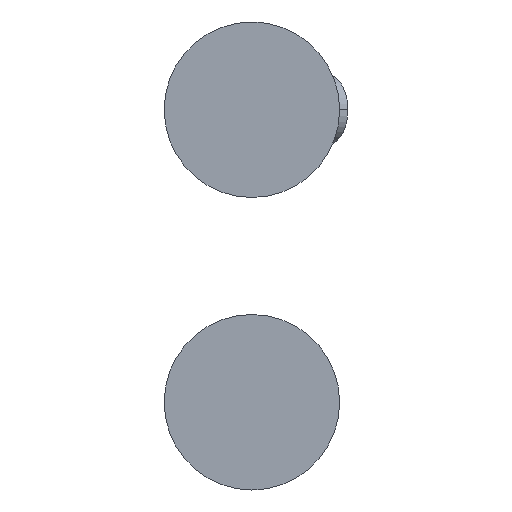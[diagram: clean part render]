
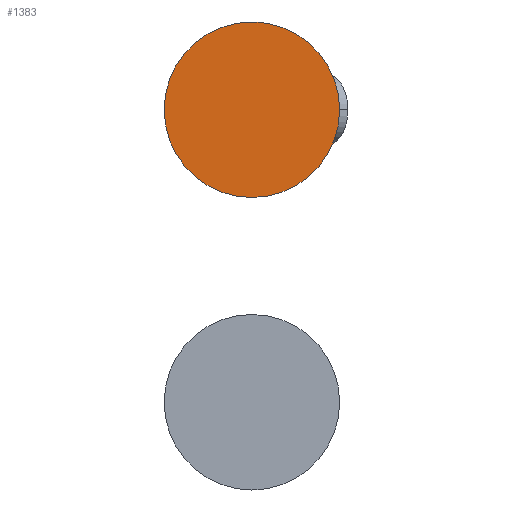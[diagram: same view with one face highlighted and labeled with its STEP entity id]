
A CAD part, left-side view. The second image highlights one B-rep face of the part: STEP entity #1383.
In plain terms, the highlighted planar face has unit normal (-1, 0, 0).
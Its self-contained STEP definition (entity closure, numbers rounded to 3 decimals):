
#299 = VERTEX_POINT ( 'NONE', #906 ) ;
#403 = CARTESIAN_POINT ( 'NONE',  ( -6., 0., 0. ) ) ;
#430 = DIRECTION ( 'NONE',  ( 0., 0., -1. ) ) ;
#484 = VERTEX_POINT ( 'NONE', #1529 ) ;
#679 = DIRECTION ( 'NONE',  ( 1., 0., 0. ) ) ;
#700 = AXIS2_PLACEMENT_3D ( 'NONE', #1821, #1852, #430 ) ;
#836 = AXIS2_PLACEMENT_3D ( 'NONE', #403, #679, #1933 ) ;
#883 = FACE_OUTER_BOUND ( 'NONE', #895, .T. ) ;
#895 = EDGE_LOOP ( 'NONE', ( #931, #1644 ) ) ;
#906 = CARTESIAN_POINT ( 'NONE',  ( -6., 0., -30. ) ) ;
#913 = DIRECTION ( 'NONE',  ( 0., 0., -1. ) ) ;
#931 = ORIENTED_EDGE ( 'NONE', *, *, #1031, .F. ) ;
#1031 = EDGE_CURVE ( 'NONE', #299, #484, #1294, .T. ) ;
#1111 = CARTESIAN_POINT ( 'NONE',  ( -6., 0., 0. ) ) ;
#1152 = CIRCLE ( 'NONE', #700, 30. ) ;
#1294 = CIRCLE ( 'NONE', #1551, 30. ) ;
#1305 = EDGE_CURVE ( 'NONE', #484, #299, #1152, .T. ) ;
#1383 = ADVANCED_FACE ( 'NONE', ( #883 ), #1785, .F. ) ;
#1413 = DIRECTION ( 'NONE',  ( 1., 0., 0. ) ) ;
#1529 = CARTESIAN_POINT ( 'NONE',  ( -6., 0., 30. ) ) ;
#1551 = AXIS2_PLACEMENT_3D ( 'NONE', #1111, #1413, #913 ) ;
#1644 = ORIENTED_EDGE ( 'NONE', *, *, #1305, .F. ) ;
#1785 = PLANE ( 'NONE',  #836 ) ;
#1821 = CARTESIAN_POINT ( 'NONE',  ( -6., 0., 0. ) ) ;
#1852 = DIRECTION ( 'NONE',  ( 1., 0., 0. ) ) ;
#1933 = DIRECTION ( 'NONE',  ( 0., 0., -1. ) ) ;
